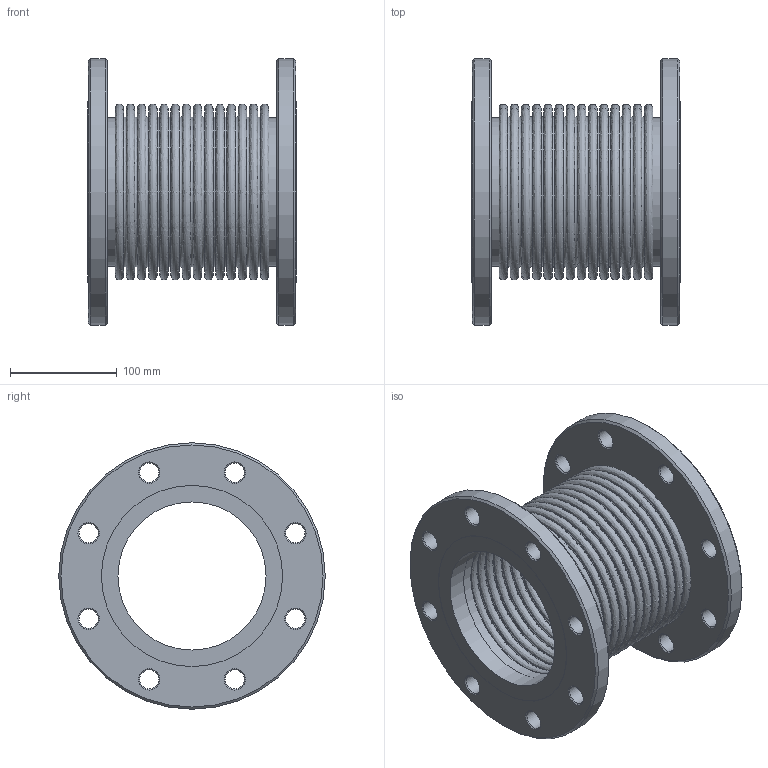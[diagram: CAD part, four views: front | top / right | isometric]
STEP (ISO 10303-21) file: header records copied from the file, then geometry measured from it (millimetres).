
FILE_DESCRIPTION (( 'STEP AP214' ), '1' );
FILE_NAME ('97119999.STEP', '2024-09-06T14:06:04', ( '' ), ( '' ), 'SwSTEP 2.0', 'SolidWorks 2021', '' );
FILE_SCHEMA (( 'AUTOMOTIVE_DESIGN' ));
Length unit declared in the file: millimetre
Products named in the file (1): 97119999
Bounding box: 195.4 x 250 x 250 mm (x, y, z)
Volume: 1238714.3 mm3; surface area: 656752.4 mm2
Topology: 1 solids, 1 shells, 180 faces, 420 edges, 250 vertices
Faces by surface type: cone 92, bspline 54, cylinder 24, plane 10
Full cylindrical faces by diameter (mm): 18 x16, 138.9 x2, 139.7 x2, 170 x2, 250 x2
Entity records: 5108 total; most frequent: CARTESIAN_POINT 2031, DIRECTION 646, EDGE_LOOP 392, ORIENTED_EDGE 392, AXIS2_PLACEMENT_3D 323, FACE_OUTER_BOUND 258, VERTEX_POINT 196, CIRCLE 196
